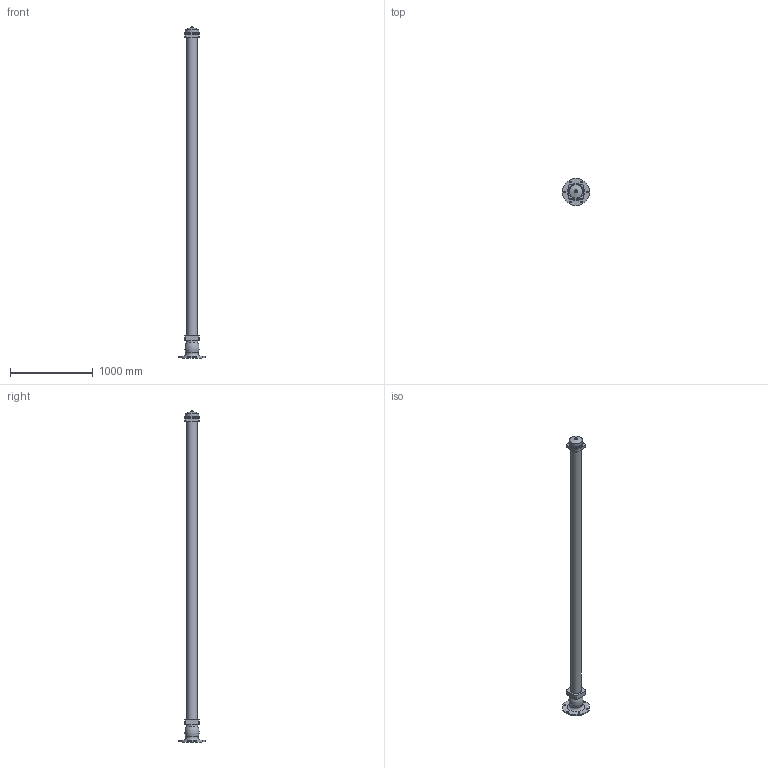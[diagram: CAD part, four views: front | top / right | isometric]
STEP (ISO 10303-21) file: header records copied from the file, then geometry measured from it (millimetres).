
FILE_DESCRIPTION(('STEP AP203'), '1');
FILE_NAME('Ãèäðàíò GPP 4000 ïîæàðíûé ïîäçåìíûé', '', ('UNSPECIFIED'), ('UNSPECIFIED'), 'ASCON STEP Converter 1.6', 'ASCON Math Kernel', '');
FILE_SCHEMA(('CONFIG_CONTROL_DESIGN'));
Length unit declared in the file: millimetre
Bounding box: 330 x 330 x 4022 mm (x, y, z)
Volume: 56948280.6 mm3; surface area: 1921378.8 mm2
Topology: 1 solids, 1 shells, 47 faces, 104 edges, 67 vertices
Faces by surface type: plane 26, cylinder 12, cone 7, torus 2
Full cylindrical faces by diameter (mm): 20 x1, 22 x6, 129 x1, 142 x1, 143 x1, 157.302 x1, 160 x1
Entity records: 1617 total; most frequent: DIRECTION 212, CARTESIAN_POINT 196, ORIENTED_EDGE 164, EDGE_LOOP 88, AXIS2_PLACEMENT_3D 82, EDGE_CURVE 82, VERTEX_POINT 66, COLOUR_RGB 48
